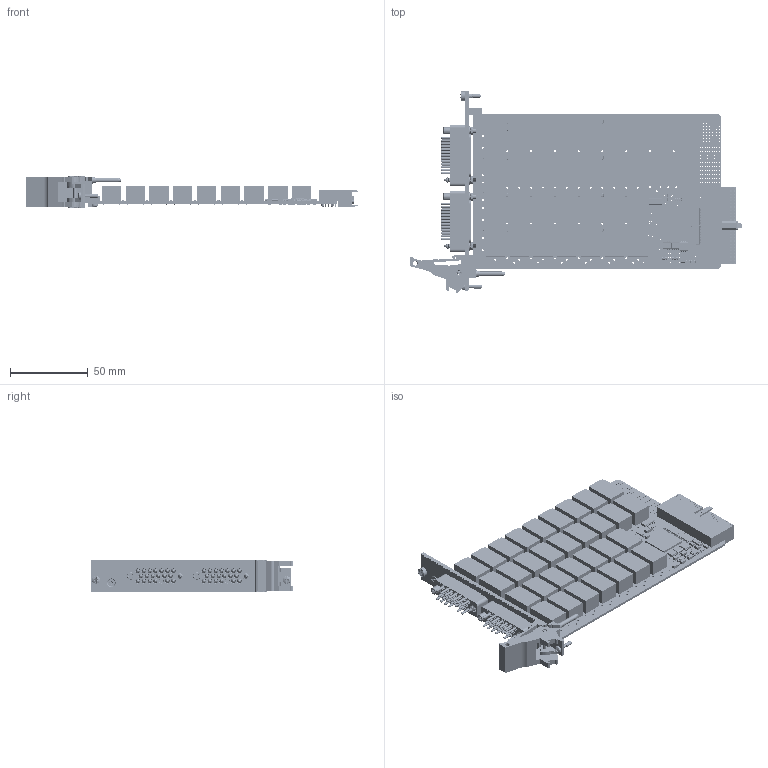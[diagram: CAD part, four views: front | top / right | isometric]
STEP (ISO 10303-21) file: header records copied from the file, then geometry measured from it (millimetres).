
FILE_DESCRIPTION (( 'STEP AP214' ), '1' );
FILE_NAME ('40-661B-002-M PXI MUX 4 BANK 8CH 1-PL.step', '2026-03-02T08:53:19', ( '' ), ( '' ), 'SwSTEP 2.0', 'SolidWorks 2025', '' );
FILE_SCHEMA (( 'AUTOMOTIVE_DESIGN' ));
Length unit declared in the file: millimetre
Products named in the file (60): C-CP-124 CAP 10nF CERAMIC SMT 0402; C-CN-1284 POSITRONIC MALE CONTACT 20AWG; C-RS-148 Res 1K 0603 1-16W 1% 100PPM; C-CN-502  Positronic Connector Body; C-IC-550 Voltage Difference Amplifier; C-CN-502  Positronic Connector Assembly; C-FX-165 Handle Finger; C-RS-147 Res 100R 0603 1-16W 1% 100PPM; C-CP-034; C-FX-165 CPCI Ejector Handle; C-CP-175 CAP 22uF 1206 25V X5R 10%; C-RS-521 Res 120R (0603) 1-16W 1% 100pp; C-CN-502 female Mount pin; C-RL-155 Relay DK1a-5V_With Out Text; C-FX-1176 M2,5 Collar Posi-Slot Screw; C-CP-141 CAP 10UF 1206 35V X5R 10%; C-PC-1676  HD 10A MUX; C-IC-369 FPGA 17000 Cells 65nm Technology 1.2V 256-Pin FTBGA; C-IC-458 LDO VOLTAGE REGULATOR 1.2V SOT; L-FP-270 PXI 1 Slot 2 x MS Power Connector FP Label assy; C-FX-101 Screw, M2.5 x 6, Pan Hd, Pozi, Steel, BZP; C-CN-355 Compact pci connector 3; C-SC-056 80V 250mA (DC) SOD323 Diode; C-CP-099 CAP 0.1uF 16V 0402 SMT; C-CP-239  Power Line Filter; C-RS-152 Res 10K 0603 1-16W 1% 300PPM; C-IC-425 SOICN 8PIN SD; C-FP-270 FP PXI 1-Slot 2xMS Power Cons; A-FP-270 PXI 1 Slot 2 x MS Power Connector FP + Label Assy; C-CN-107-BODY; C-SC-146 Dual Transistor SOT-14; C-MS-803 BEAD 120R 0603 2A 0R05 25%; C-BK-026 Bush Front Panel Mounting; C-CN-502 Male Connector Mount; L-FX-165 PXI Handle Label; Z-FX-2001 FP Fixing - Bush + Screw; A-PC-1676-# High Density 10A Power Multiplexer; C-CP-139 CAP 4.7UF 1206 16V X7R 10%; C-FX-165 Handle Body; C-RS-659 RES NW 4K7 4RES 8PINS SMT1206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
Assembly tree (247 placements, depth 5):
  40-661B-002-M PXI MUX 4 BANK 8CH 1-PL
    A-PC-1676 High Density 10A Power Multiplexer
      A-PC-1676-# High Density 10A Power Multiplexer
        C-PC-1676  HD 10A MUX
        C-RS-152 Res 10K 0603 1-16W 1% 300PPM  x2
        C-CP-099 CAP 0.1uF 16V 0402 SMT  x12
        C-CP-124 CAP 10nF CERAMIC SMT 0402  x29
        C-IC-458 LDO VOLTAGE REGULATOR 1.2V SOT
        C-MS-803 BEAD 120R 0603 2A 0R05 25%  x2
        C-CP-034  x18
        C-CP-130 CAP 1uF CERAMIC SMT 0603  x2
        C-CP-175 CAP 22uF 1206 25V X5R 10%  x2
        C-CP-139 CAP 4.7UF 1206 16V X7R 10%  x2
        C-SC-168 SOT363 Complementary MOSFET 20V-8V  x2
        C-IC-550 Voltage Difference Amplifier  x2
        C-RL-155 Relay DK1a-5V_With Out Text  x32
        C-RS-190 Res 0R0 SIZE 0603 SMT  x3
        C-SC-056 80V 250mA (DC) SOD323 Diode  x32
        C-IC-489 F-RAM Semiconductor Serial-I2C FRAM Memory 512kbit 2-3.6 V 8-Pin SOIC
        C-IC-425 SOICN 8PIN SD
        C-IC-598 64Mbit Flash Memory 8-Pin SOIC
        C-IC-442 VSSOP 8PIN SD
        C-IC-546 24 BIT BUS SWITCH 56PIN TVSOP  x2
        C-IC-369 FPGA 17000 Cells 65nm Technology 1.2V 256-Pin FTBGA
        C-RS-148 Res 1K 0603 1-16W 1% 100PPM  x2
        C-RS-659 RES NW 4K7 4RES 8PINS SMT1206  x4
        C-RS-521 Res 120R (0603) 1-16W 1% 100pp
        C-RS-147 Res 100R 0603 1-16W 1% 100PPM
        C-SC-146 Dual Transistor SOT-14  x2
        C-CN-1071
          C-CN-107-BODY
          C-CN-107-PIN  x8
        C-CP-141 CAP 10UF 1206 35V X5R 10%  x6
        C-CP-239  Power Line Filter  x2
        C-CN-355 Compact pci connector 3
    A-FP-270-L1 FP FUll Assy
      A-FP-270 PXI 1 Slot 2 x MS Power Connector FP + Label Assy
        C-FP-270 FP PXI 1-Slot 2xMS Power Cons
          C-BP-015 PXI 3U x 1 Slot Blank Panel
        L-FP-270 PXI 1 Slot 2 x MS Power Connector FP Label assy
          L-FP-270-# PXI 1 Slot 2 x MS Power Connector FP Label
      C-FX-165 CPCI Ejector Handle
        C-FX-165 Handle Body
        C-FX-165 Handle Finger
        C-FX-165 Handle Pin
        P-FX-017 M2,5 Collar Posi-Slot Screw
        L-FX-165 PXI Handle Label
      Z-FX-2001 FP Fixing - Bush + Screw
        C-BK-026 Bush Front Panel Mounting
        C-FX-1176 M2,5 Collar Posi-Slot Screw
      C-FX-1181 Low Profile L Shaped Reversed Mounting Block
      C-FX-042 Screw M2.5x6 CSK Pozi_M 2.5x06 - C-FX-042
      C-FX-101 Screw, M2.5 x 6, Pan Hd, Pozi, Steel, BZP
    C-CN-502  Positronic Connector Assembly  x2
      C-CN-502  Positronic Connector Body
      C-CN-502 female Mount pin
      C-CN-502 Male Connector Mount
      C-CN-502 Positronic Connector Washer
      C-CN-502 Positronic Connector Nut
    C-CN-1284 POSITRONIC MALE CONTACT 20AWG  x38
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Bounding box: 213.7 x 129.63 x 20 mm (x, y, z)
Volume: 134677.7 mm3; surface area: 115708.4 mm2
Topology: 247 solids, 274 shells, 18844 faces, 45031 edges, 27765 vertices
Faces by surface type: plane 9773, cylinder 6031, torus 1354, cone 1133, bspline 287, sphere 266
Entity records: 371125 total; most frequent: CARTESIAN_POINT 55953, DIRECTION 50444, ORIENTED_EDGE 46574, EDGE_CURVE 23289, AXIS2_PLACEMENT_3D 18062, VERTEX_POINT 14665, LINE 14320, VECTOR 14320
